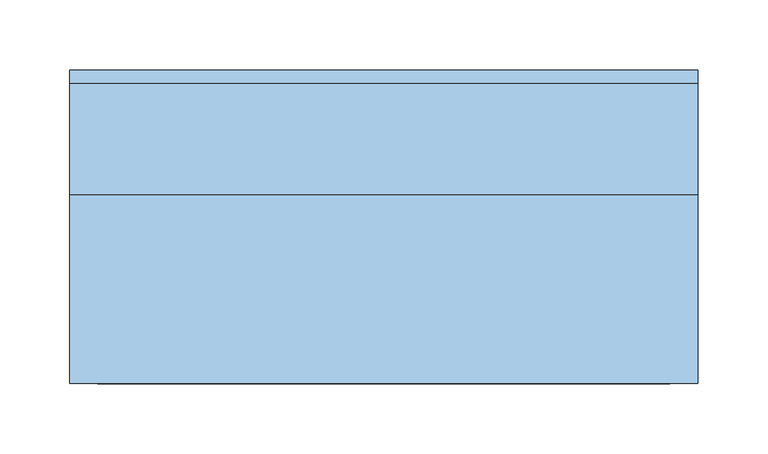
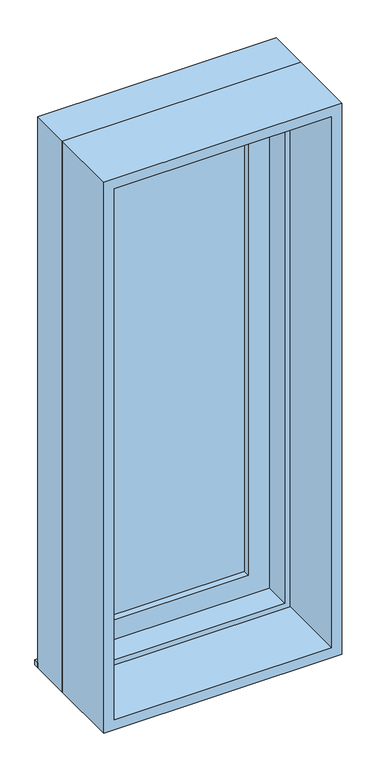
"""IFC4 building model written with IfcOpenShell, lengths in millimetres: window geometry, 窓-開き-内付 : AW-1' w0450 h1100."""

from ifc_helpers import new_model, si_unit, frame, origin, place, context, project, spatial, polyline, outline, extrude, source, transform, mapped, element, save


def window_4c3e1407(model_context):
    return source(origin(), model_context, "Body", "SweptSolid", [
        extrude(outline(polyline([(225.0, 110.0), (225.0, 100.0), (-225.0, 100.0), (-225.0, 110.0), (225.0, 110.0)])), frame((0.0, 0.0, 1200.0), z_axis=(0.0, 0.0, 1.0), x_axis=(1.0, 0.0, 0.0)), (0.0, 0.0, 1.0), 10.0),
        extrude(outline(polyline([(1200.0, 225.0), (2300.0, 225.0), (2300.0, -225.0), (1200.0, -225.0), (1200.0, 225.0)]), holes=[polyline([(1220.0, 205.0), (1220.0, -205.0), (2280.0, -205.0), (2280.0, 205.0), (1220.0, 205.0)])]), frame((0.0, -115.0, 0.0), z_axis=(0.0, 1.0, 0.0), x_axis=(0.0, 0.0, 1.0)), (0.0, 0.0, 1.0), 135.0),
        extrude(outline(polyline([(1200.0, -225.0), (1200.0, 225.0), (2300.0, 225.0), (2300.0, -225.0), (1200.0, -225.0)]), holes=[polyline([(1230.0, -195.0), (2270.0, -195.0), (2270.0, 195.0), (1230.0, 195.0), (1230.0, -195.0)])]), frame((0.0, 20.0, 0.0), z_axis=(0.0, 1.0, 0.0), x_axis=(0.0, 0.0, 1.0)), (0.0, 0.0, 1.0), 80.0),
        extrude(outline(polyline([(155.0, 82.5), (-155.0, 82.5), (-155.0, 87.5), (155.0, 87.5), (155.0, 82.5)])), frame((0.0, 0.0, 1270.0), z_axis=(0.0, 0.0, 1.0), x_axis=(1.0, 0.0, 0.0)), (0.0, 0.0, 1.0), 960.0),
        extrude(outline(polyline([(1230.0, -195.0), (1230.0, 195.0), (2270.0, 195.0), (2270.0, -195.0), (1230.0, -195.0)]), holes=[polyline([(1270.0, -155.0), (2230.0, -155.0), (2230.0, 155.0), (1270.0, 155.0), (1270.0, -155.0)])]), frame((0.0, 70.0, 0.0), z_axis=(0.0, 1.0, 0.0), x_axis=(0.0, 0.0, 1.0)), (0.0, 0.0, 1.0), 30.0),
    ])


if __name__ == "__main__":
    model = new_model("IFC4")
    model_context = context("Model", 3, world=origin())
    ifc_project = project(units=[si_unit("LENGTHUNIT", "METRE", prefix="MILLI")], contexts=[model_context])
    site = spatial("IfcSite", under=ifc_project)
    building = spatial("IfcBuilding", under=site)
    placement = place(None, origin())
    window_shape = window_4c3e1407(model_context)
    element("IfcWindow", 1, ObjectType="窓-開き-内付 : AW-1' w0450 h1100", at=placement, inside=building, context=model_context, shape_type="MappedRepresentation", body=[
        mapped(window_shape, transform((0.0, 0.0, 0.0), x_axis=(1.0, 0.0, 0.0), y_axis=(0.0, 1.0, 0.0), z_axis=(0.0, 0.0, 1.0))),
    ])
    save(model, "model.ifc")
